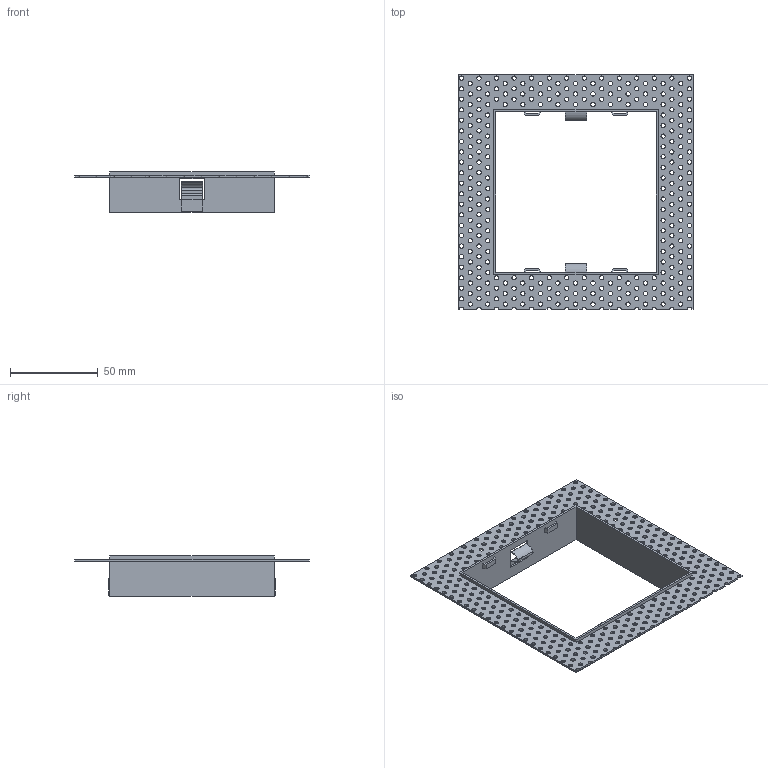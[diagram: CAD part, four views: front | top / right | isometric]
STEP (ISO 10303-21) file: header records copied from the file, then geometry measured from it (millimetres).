
FILE_DESCRIPTION(/* description */ (''),/* implementation_level */ '2;1');
FILE_NAME(/* name */ 'C:\Users\FrancoSartori\Documents\FARO\01_En Proceso\0000_2022\000_PRO\000_PODIUM\03_Publicación\02 PODIUM EMPOTRADO SIN MARCO 1.stp',/* time_stamp */ '2022-05-12T13:41:29+02:00',/* author */ ('FrancoSartori'),/* organization */ (''),/* preprocessor_version */ 'ST-DEVELOPER v19',/* originating_system */ 'AutoCAD Mechanical',/* authorisation */ '');
FILE_SCHEMA (('AUTOMOTIVE_DESIGN { 1 0 10303 214 3 1 1 }'));
Length unit declared in the file: millimetre
Products named in the file (2): Product; 02 PODIUM EMPOTRADO SIN MARCO 1_ - Lamp-679601-View 1
Assembly tree (1 placements, depth 2):
  Product
    02 PODIUM EMPOTRADO SIN MARCO 1_ - Lamp-679601-View 1
Bounding box: 134.01 x 134 x 23 mm (x, y, z)
Volume: 17918.8 mm3; surface area: 36785.2 mm2
Topology: 3 solids, 3 shells, 696 faces, 2064 edges, 1376 vertices
Faces by surface type: cylinder 606, plane 90
Entity records: 25243 total; most frequent: DIRECTION 4674, CARTESIAN_POINT 4139, ORIENTED_EDGE 4128, EDGE_CURVE 2064, AXIS2_PLACEMENT_3D 1911, VERTEX_POINT 1376, EDGE_LOOP 1292, CIRCLE 1212
